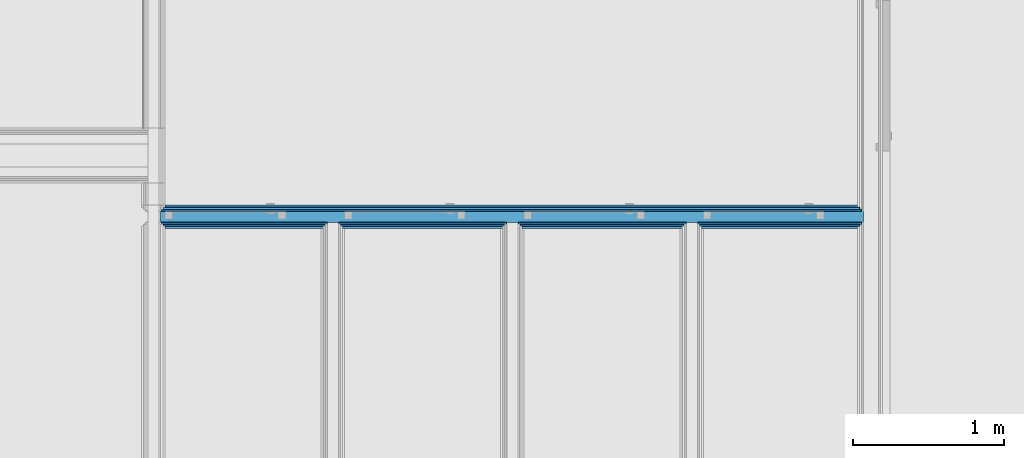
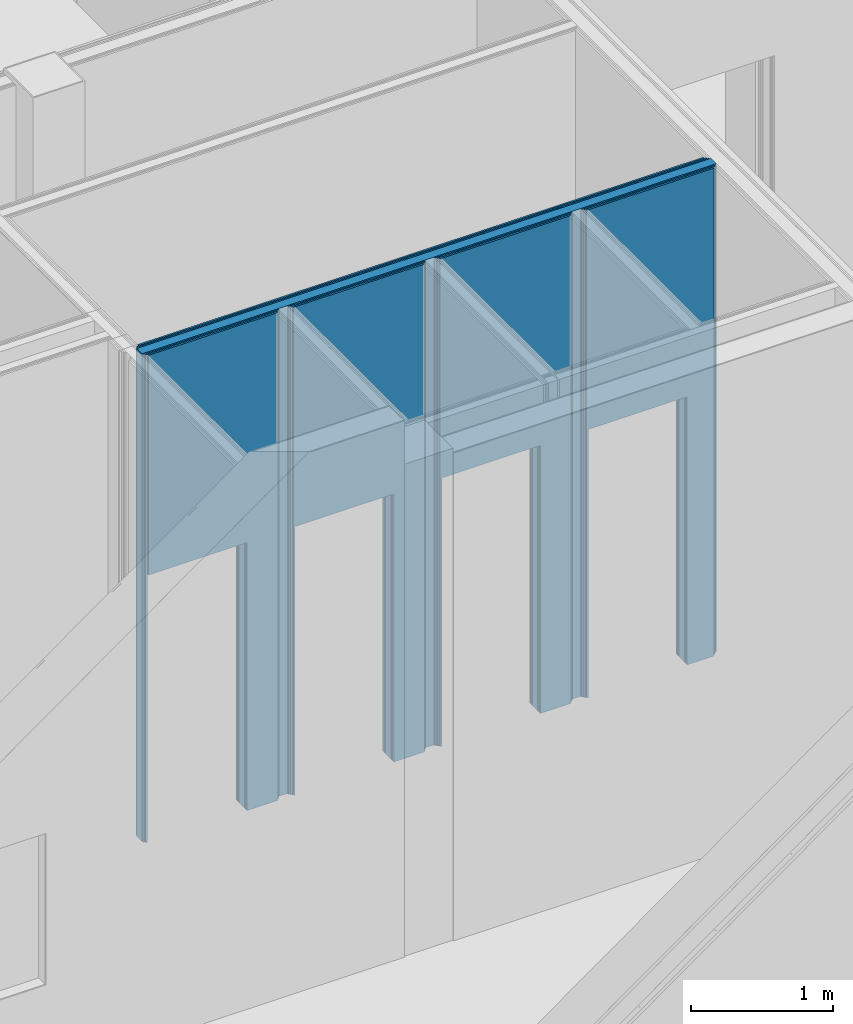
# One storey, part 120 of 260: 7 building element parts, 4 openings, 1 element without a shape of its own.
"""IFC2X3 building model written with IfcOpenShell, lengths in millimetres."""

from ifc_helpers import new_model, entity, si_unit, converted_unit, derived_unit, money_unit, direction, frame, origin_with_axes, place, context, subcontext, project, spatial, faceted_brep, material, type_object, element, aggregate, save


model = new_model("IFC2X3")

# Units and contexts
model_context = context("Model", 3, precision=0.01, world=origin_with_axes(), true_north=direction((0.0, 1.0)))
body_context = subcontext(model_context, "Body", "Model", "MODEL_VIEW")
ifc_project = project(units=[si_unit("LENGTHUNIT", "METRE", prefix="MILLI"), si_unit("AREAUNIT", "SQUARE_METRE"), si_unit("VOLUMEUNIT", "CUBIC_METRE"), converted_unit("PLANEANGLEUNIT", "DEGREE", entity("IfcPlaneAngleMeasure", 0.0174532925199), si_unit("PLANEANGLEUNIT", "RADIAN"), dimensions=[0, 0, 0, 0, 0, 0, 0]), money_unit("EUR"), converted_unit("TIMEUNIT", "Year", entity("IfcTimeMeasure", 31556926.0), si_unit("TIMEUNIT", "SECOND"), dimensions=[0, 0, 1, 0, 0, 0, 0]), si_unit("MASSUNIT", "GRAM", prefix="KILO"), si_unit("THERMODYNAMICTEMPERATUREUNIT", "DEGREE_CELSIUS"), si_unit("LUMINOUSINTENSITYUNIT", "LUMEN"), si_unit("ENERGYUNIT", "JOULE", prefix="MEGA"), derived_unit("THERMALCONDUCTANCEUNIT", [(si_unit("POWERUNIT", "WATT"), 1), (si_unit("LENGTHUNIT", "METRE"), -1), (si_unit("THERMODYNAMICTEMPERATUREUNIT", "KELVIN"), -1)]), derived_unit("SPECIFICHEATCAPACITYUNIT", [(si_unit("ENERGYUNIT", "JOULE"), 1), (si_unit("MASSUNIT", "GRAM", prefix="KILO"), -1), (si_unit("THERMODYNAMICTEMPERATUREUNIT", "KELVIN"), -1)]), derived_unit("MASSDENSITYUNIT", [(si_unit("MASSUNIT", "GRAM", prefix="KILO"), 1), (si_unit("VOLUMEUNIT", "CUBIC_METRE"), -1)])], contexts=[model_context])

# Site, building, storey
site_placement = place(None, origin_with_axes())
site = spatial("IfcSite", under=ifc_project, at=site_placement, Name="Kolde pst 67a", CompositionType="ELEMENT")
building_placement = place(site_placement, origin_with_axes())
building = spatial("IfcBuilding", under=site, at=building_placement, Name="Riigigümnaasium", CompositionType="ELEMENT")
storey_placement = place(building_placement, origin_with_axes())
storey = spatial("IfcBuildingStorey", under=building, at=storey_placement, Name="1. korrus", CompositionType="ELEMENT", Elevation=0.0)

# Wall, openings, building element parts
wall_type = type_object("IfcWallType", Name="SS-MK-7,5/1_plaaditud 155", PredefinedType="NOTDEFINED")
wall_placement = place(storey_placement, frame((73479.99953, 12796.8952753, 0.0), z_axis=(0.0, 0.0, 1.0), x_axis=(-1.0, 0.0, 0.0)))
wall = element("IfcWall", 1, at=wall_placement, inside=storey, type_object=wall_type, Name="Sisesein")
opening_1_placement = place(wall_placement, frame((620.0, 0.0, 0.0), z_axis=(0.0, 0.0, 1.0), x_axis=(1.0, 0.0, 0.0)))
element("IfcOpeningElement", 2, at=opening_1_placement, cuts=wall, Name="Siseuks", context=body_context, shape_type="Brep", body=[
    faceted_brep([(400.0, -310.0, 2300.0), (400.0, -310.0, 0.0), (400.0, 155.0, 0.0), (400.0, 155.0, 2300.0), (-400.0, -310.0, 2300.0), (-400.0, -310.0, 0.0), (-400.0, 155.0, 0.0), (-400.0, 155.0, 2300.0)], [[[0, 1, 2, 3]], [[0, 4, 5, 1]], [[1, 5, 6, 2]], [[3, 2, 6, 7]], [[4, 0, 3, 7]], [[5, 4, 7, 6]]]),
])
opening_2_placement = place(wall_placement, frame((1810.0, 0.0, 0.0), z_axis=(0.0, 0.0, 1.0), x_axis=(1.0, 0.0, 0.0)))
element("IfcOpeningElement", 3, at=opening_2_placement, cuts=wall, Name="Siseuks", context=body_context, shape_type="Brep", body=[
    faceted_brep([(400.0, -310.0, 2300.0), (400.0, -310.0, 0.0), (400.0, 155.0, 0.0), (400.0, 155.0, 2300.0), (-400.0, -310.0, 2300.0), (-400.0, -310.0, 0.0), (-400.0, 155.0, 0.0), (-400.0, 155.0, 2300.0)], [[[0, 1, 2, 3]], [[0, 4, 5, 1]], [[1, 5, 6, 2]], [[3, 2, 6, 7]], [[4, 0, 3, 7]], [[5, 4, 7, 6]]]),
])
opening_3_placement = place(wall_placement, frame((3000.0, 0.0, 0.0), z_axis=(0.0, 0.0, 1.0), x_axis=(1.0, 0.0, 0.0)))
element("IfcOpeningElement", 4, at=opening_3_placement, cuts=wall, Name="Siseuks", context=body_context, shape_type="Brep", body=[
    faceted_brep([(400.0, -310.0, 2300.0), (400.0, -310.0, 0.0), (400.0, 155.0, 0.0), (400.0, 155.0, 2300.0), (-400.0, -310.0, 2300.0), (-400.0, -310.0, 0.0), (-400.0, 155.0, 0.0), (-400.0, 155.0, 2300.0)], [[[0, 1, 2, 3]], [[0, 4, 5, 1]], [[1, 5, 6, 2]], [[3, 2, 6, 7]], [[4, 0, 3, 7]], [[5, 4, 7, 6]]]),
])
opening_4_placement = place(wall_placement, frame((4190.0, 0.0, 0.0), z_axis=(0.0, 0.0, 1.0), x_axis=(1.0, 0.0, 0.0)))
element("IfcOpeningElement", 5, at=opening_4_placement, cuts=wall, Name="Siseuks", context=body_context, shape_type="Brep", body=[
    faceted_brep([(400.0, -310.0, 2300.0), (400.0, -310.0, 0.0), (400.0, 155.0, 0.0), (400.0, 155.0, 2300.0), (-400.0, -310.0, 2300.0), (-400.0, -310.0, 0.0), (-400.0, 155.0, 0.0), (-400.0, 155.0, 2300.0)], [[[0, 1, 2, 3]], [[0, 4, 5, 1]], [[1, 5, 6, 2]], [[3, 2, 6, 7]], [[4, 0, 3, 7]], [[5, 4, 7, 6]]]),
])
ifc_material_1 = material(Name="_VIIMISTLUSKIHT - viimistlus vastavalt SA osale")
building_element_part_1_placement = place(wall_placement, origin_with_axes())
building_element_part_1 = element("IfcBuildingElementPart", 6, at=building_element_part_1_placement, material=ifc_material_1, Name="_VIIMISTLUSKIHT - viimistlus vastavalt SA osale", context=body_context, shape_type="Brep", body=[
    faceted_brep([(1020.0, -15.0000011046, 2300.0), (1020.0, -15.0, 0.0), (1034.99998756, -15.0, 0.0), (1034.99998756, -15.0000011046, 4185.0), (0.0, -15.0000014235, 4185.0), (0.0, -15.0, 0.0), (220.0, -15.0, 0.0), (220.0, -15.0000011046, 2300.0), (1020.0, 2.90572899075e-06, 2300.0), (1020.0, 0.0, 0.0), (1035.0, 0.0, 0.0), (1035.0, 2.05135108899e-06, 4185.0), (0.0, 2.90572899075e-06, 4185.0), (0.0, 0.0, 0.0), (220.0, 0.0, 0.0), (220.0, 2.90572899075e-06, 2300.0)], [[[0, 1, 2, 3, 4, 5, 6, 7]], [[1, 0, 8, 9]], [[1, 9, 10, 2]], [[3, 2, 10, 11]], [[4, 3, 11, 12]], [[12, 13, 5, 4]], [[14, 6, 5, 13]], [[7, 6, 14, 15]], [[0, 7, 15, 8]], [[15, 14, 13, 12, 11, 10, 9, 8]]]),
    faceted_brep([(2210.0, -15.0000007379, 2300.0), (2210.0, -15.0, 0.0), (2224.99998756, -15.0, 0.0), (2224.99998756, -15.0000007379, 4185.0), (1159.99998756, -15.0000010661, 4185.0), (1159.99998756, -15.0, 0.0), (1410.0, -15.0, 0.0), (1410.0, -15.0000007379, 2300.0), (2210.0, 1.9798243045e-06, 2300.0), (2210.0, 0.0, 0.0), (2225.0, 0.0, 0.0), (2225.0, 1.37042732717e-06, 4185.0), (1160.0, 1.9798243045e-06, 4185.0), (1160.0, 0.0, 0.0), (1410.0, 0.0, 0.0), (1410.0, 1.9798243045e-06, 2300.0)], [[[0, 1, 2, 3, 4, 5, 6, 7]], [[1, 0, 8, 9]], [[1, 9, 10, 2]], [[3, 2, 10, 11]], [[4, 3, 11, 12]], [[12, 13, 5, 4]], [[14, 6, 5, 13]], [[7, 6, 14, 15]], [[0, 7, 15, 8]], [[15, 14, 13, 12, 11, 10, 9, 8]]]),
    faceted_brep([(3400.0, -15.0000003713, 2300.0), (3400.0, -15.0, 0.0), (3414.99998609, -15.0, 0.0), (3414.99998609, -15.0000003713, 4185.0), (2349.99998756, -15.0000006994, 4185.0), (2349.99998756, -15.0, 0.0), (2600.0, -15.0, 0.0), (2600.0, -15.0000003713, 2300.0), (3400.0, 1.29890409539e-06, 2300.0), (3400.0, 0.0, 0.0), (3415.0, 0.0, 0.0), (3415.0, 6.89507118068e-07, 4185.0), (2350.0, 1.29890409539e-06, 4185.0), (2350.0, 0.0, 0.0), (2600.0, 0.0, 0.0), (2600.0, 1.29890409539e-06, 2300.0)], [[[0, 1, 2, 3, 4, 5, 6, 7]], [[1, 0, 8, 9]], [[1, 9, 10, 2]], [[3, 2, 10, 11]], [[4, 3, 11, 12]], [[12, 13, 5, 4]], [[14, 6, 5, 13]], [[7, 6, 14, 15]], [[0, 7, 15, 8]], [[15, 14, 13, 12, 11, 10, 9, 8]]]),
    faceted_brep([(3790.0, -15.0000000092, 2300.0), (4590.0, -15.0000000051, 2300.0), (4590.00005254, -15.0000000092, 4185.0), (3539.99998609, -15.0000003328, 4185.0), (3539.99998609, -15.0, 0.0), (3790.0, -15.0, 0.0), (3790.0, 6.17980333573e-07, 2300.0), (4590.0, 9.43423117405e-09, 2300.0), (4590.00005254, 1.7166712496e-08, 4185.0), (3540.0, 6.17980333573e-07, 4185.0), (3540.0, 0.0, 0.0), (3790.0, 0.0, 0.0)], [[[0, 1, 2, 3, 4, 5]], [[1, 0, 6, 7]], [[1, 7, 8, 2]], [[3, 2, 8, 9]], [[9, 10, 4, 3]], [[11, 5, 4, 10]], [[0, 5, 11, 6]], [[6, 11, 10, 9, 8, 7]]]),
])
ifc_material_2 = material(Name="_PLAATMATERJAL - kipsplaat veekindel")
building_element_part_2_placement = place(wall_placement, origin_with_axes())
building_element_part_2 = element("IfcBuildingElementPart", 7, at=building_element_part_2_placement, material=ifc_material_2, Name="_PLAATMATERJAL - kipsplaat veekindel", context=body_context, shape_type="Brep", body=[
    faceted_brep([(1020.0, -27.5, 2300.0), (1020.0, -27.5, 0.0), (1047.49997719, -27.5, 0.0), (1047.49997719, -27.5, 4185.0), (-15.0, -27.5, 4185.0), (-15.0, -27.5, 0.0), (220.0, -27.5, 0.0), (220.0, -27.5, 2300.0), (1020.0, -15.0000015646, 2300.0), (1020.0, -15.0, 0.0), (1047.49998756, -15.0, 0.0), (1047.49998756, -15.0000011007, 4185.0), (0.0, -15.0000015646, 4185.0), (-15.0, -15.0000015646, 4185.0), (-15.0, -15.0, 0.0), (220.0, -15.0, 0.0), (220.0, -15.0000015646, 2300.0)], [[[0, 1, 2, 3, 4, 5, 6, 7]], [[1, 0, 8, 9]], [[1, 9, 10, 2]], [[3, 2, 10, 11]], [[12, 13, 4, 3, 11]], [[5, 4, 13, 14]], [[15, 6, 5, 14]], [[7, 6, 15, 16]], [[0, 7, 16, 8]], [[16, 15, 14, 13, 12, 11, 10, 9, 8]]]),
    faceted_brep([(2210.0, -27.5, 2300.0), (2210.0, -27.5, 0.0), (2237.49997719, -27.5, 0.0), (2237.49997719, -27.5, 4185.0), (1147.49997719, -27.5, 4185.0), (1147.49997719, -27.5, 0.0), (1410.0, -27.5, 0.0), (1410.0, -27.5, 2300.0), (2210.0, -15.0000010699, 2300.0), (2210.0, -15.0, 0.0), (2237.49998756, -15.0, 0.0), (2237.49998756, -15.0000007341, 4185.0), (1147.49998756, -15.0000010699, 4185.0), (1147.49998756, -15.0, 0.0), (1410.0, -15.0, 0.0), (1410.0, -15.0000010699, 2300.0)], [[[0, 1, 2, 3, 4, 5, 6, 7]], [[1, 0, 8, 9]], [[1, 9, 10, 2]], [[3, 2, 10, 11]], [[4, 3, 11, 12]], [[12, 13, 5, 4]], [[14, 6, 5, 13]], [[7, 6, 14, 15]], [[0, 7, 15, 8]], [[15, 14, 13, 12, 11, 10, 9, 8]]]),
    faceted_brep([(3400.0, -27.5, 2300.0), (3400.0, -27.5, 0.0), (3427.4999745, -27.5, 0.0), (3427.4999745, -27.5, 4185.0), (2337.49997719, -27.5, 4185.0), (2337.49997719, -27.5, 0.0), (2600.0, -27.5, 0.0), (2600.0, -27.5, 2300.0), (3400.0, -15.0000007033, 2300.0), (3400.0, -15.0, 0.0), (3427.49998609, -15.0, 0.0), (3427.49998609, -15.0000003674, 4185.0), (2337.49998756, -15.0000007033, 4185.0), (2337.49998756, -15.0, 0.0), (2600.0, -15.0, 0.0), (2600.0, -15.0000007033, 2300.0)], [[[0, 1, 2, 3, 4, 5, 6, 7]], [[1, 0, 8, 9]], [[1, 9, 10, 2]], [[3, 2, 10, 11]], [[4, 3, 11, 12]], [[12, 13, 5, 4]], [[14, 6, 5, 13]], [[7, 6, 14, 15]], [[0, 7, 15, 8]], [[15, 14, 13, 12, 11, 10, 9, 8]]]),
    faceted_brep([(4590.0, -27.5, 2300.0), (4590.0, -27.5, 0.0), (4605.00005254, -27.5, 0.0), (4605.00005254, -27.5, 4185.0), (3527.4999745, -27.5, 4185.0), (3527.4999745, -27.5, 0.0), (3790.0, -27.5, 0.0), (3790.0, -27.5, 2300.0), (4590.0, -15.0000003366, 2300.0), (4590.0, -15.0, 0.0), (4605.00005254, -15.0, 0.0), (4605.00005254, -15.0000000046, 4185.0), (3527.49998609, -15.0000003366, 4185.0), (3527.49998609, -15.0, 0.0), (3790.0, -15.0, 0.0), (3790.0, -15.0000003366, 2300.0)], [[[0, 1, 2, 3, 4, 5, 6, 7]], [[1, 0, 8, 9]], [[1, 9, 10, 2]], [[3, 2, 10, 11]], [[4, 3, 11, 12]], [[12, 13, 5, 4]], [[14, 6, 5, 13]], [[7, 6, 14, 15]], [[0, 7, 15, 8]], [[15, 14, 13, 12, 11, 10, 9, 8]]]),
])
building_element_part_3_placement = place(wall_placement, origin_with_axes())
building_element_part_3 = element("IfcBuildingElementPart", 8, at=building_element_part_3_placement, material=ifc_material_2, Name="_PLAATMATERJAL - kipsplaat veekindel", context=body_context, shape_type="Brep", body=[
    faceted_brep([(1020.0, -40.0000019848, 2300.0), (1020.0, -40.0, 0.0), (1059.99996682, -40.0, 0.0), (1059.99996682, -40.0000019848, 4185.0), (0.0, -40.0000028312, 4185.0), (-27.5, -40.0000028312, 4185.0), (-27.5, -40.0, 0.0), (220.0, -40.0, 0.0), (220.0, -40.0000019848, 2300.0), (1020.0, -27.5, 2300.0), (1020.0, -27.5, 0.0), (1059.99997719, -27.5, 0.0), (1059.99997719, -27.5, 4185.0), (-27.5, -27.5, 4185.0), (-27.5, -27.5, 0.0), (220.0, -27.5, 0.0), (220.0, -27.5, 2300.0)], [[[0, 1, 2, 3, 4, 5, 6, 7, 8]], [[1, 0, 9, 10]], [[1, 10, 11, 2]], [[3, 2, 11, 12]], [[12, 13, 5, 4, 3]], [[6, 5, 13, 14]], [[15, 7, 6, 14]], [[8, 7, 15, 16]], [[0, 8, 16, 9]], [[16, 15, 14, 13, 12, 11, 10, 9]]]),
    faceted_brep([(2210.0, -40.0000013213, 2300.0), (2210.0, -40.0, 0.0), (2249.99996682, -40.0, 0.0), (2249.99996682, -40.0000013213, 4185.0), (1134.99996682, -40.000001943, 4185.0), (1134.99996682, -40.0, 0.0), (1410.0, -40.0, 0.0), (1410.0, -40.0000013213, 2300.0), (2210.0, -27.5, 2300.0), (2210.0, -27.5, 0.0), (2249.99997719, -27.5, 0.0), (2249.99997719, -27.5, 4185.0), (1134.99997719, -27.5, 4185.0), (1134.99997719, -27.5, 0.0), (1410.0, -27.5, 0.0), (1410.0, -27.5, 2300.0)], [[[0, 1, 2, 3, 4, 5, 6, 7]], [[1, 0, 8, 9]], [[1, 9, 10, 2]], [[3, 2, 10, 11]], [[4, 3, 11, 12]], [[12, 13, 5, 4]], [[14, 6, 5, 13]], [[7, 6, 14, 15]], [[0, 7, 15, 8]], [[15, 14, 13, 12, 11, 10, 9, 8]]]),
    faceted_brep([(3400.0, -40.0000006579, 2300.0), (3400.0, -40.0, 0.0), (3439.9999629, -40.0, 0.0), (3439.9999629, -40.0000006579, 4185.0), (2324.99996682, -40.0000012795, 4185.0), (2324.99996682, -40.0, 0.0), (2600.0, -40.0, 0.0), (2600.0, -40.0000006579, 2300.0), (3400.0, -27.5, 2300.0), (3400.0, -27.5, 0.0), (3439.9999745, -27.5, 0.0), (3439.9999745, -27.5, 4185.0), (2324.99997719, -27.5, 4185.0), (2324.99997719, -27.5, 0.0), (2600.0, -27.5, 0.0), (2600.0, -27.5, 2300.0)], [[[0, 1, 2, 3, 4, 5, 6, 7]], [[1, 0, 8, 9]], [[1, 9, 10, 2]], [[3, 2, 10, 11]], [[4, 3, 11, 12]], [[12, 13, 5, 4]], [[14, 6, 5, 13]], [[7, 6, 14, 15]], [[0, 7, 15, 8]], [[15, 14, 13, 12, 11, 10, 9, 8]]]),
    faceted_brep([(4590.0, -40.0000006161, 2300.0), (4590.0, -40.0, 0.0), (4617.50005254, -40.0, 0.0), (4617.50005254, -40.0000000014, 4185.0), (3514.9999629, -40.0000006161, 4185.0), (3514.9999629, -40.0, 0.0), (3790.0, -40.0, 0.0), (3790.0, -40.0000006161, 2300.0), (4590.0, -27.5, 2300.0), (4590.0, -27.5, 0.0), (4617.50005254, -27.5, 0.0), (4617.50005254, -27.5, 4185.0), (3514.9999745, -27.5, 4185.0), (3514.9999745, -27.5, 0.0), (3790.0, -27.5, 0.0), (3790.0, -27.5, 2300.0)], [[[0, 1, 2, 3, 4, 5, 6, 7]], [[1, 0, 8, 9]], [[1, 9, 10, 2]], [[3, 2, 10, 11]], [[4, 3, 11, 12]], [[12, 13, 5, 4]], [[14, 6, 5, 13]], [[7, 6, 14, 15]], [[0, 7, 15, 8]], [[15, 14, 13, 12, 11, 10, 9, 8]]]),
])
ifc_material_3 = material(Name="_KARKASS - metallkarkass CW 75/50, mineraalvill karkassi vahel")
building_element_part_4_placement = place(wall_placement, origin_with_axes())
building_element_part_4 = element("IfcBuildingElementPart", 9, at=building_element_part_4_placement, material=ifc_material_3, Name="_KARKASS - metallkarkass CW 75/50, mineraalvill karkassi vahel", context=body_context, shape_type="Brep", body=[
    faceted_brep([(4590.0, -115.000000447, 2300.0), (4590.0, -115.0, 0.0), (4620.00020388, -115.0, 0.0), (4620.00020388, -115.0, 4185.0), (0.0, -115.000000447, 4185.0), (-40.0, -115.000000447, 4185.0), (-40.0, -115.0, 0.0), (220.0, -115.0, 0.0), (220.0, -115.000000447, 2300.0), (1020.0, -115.000000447, 2300.0), (1020.0, -115.0, 0.0), (1410.0, -115.0, 0.0), (1410.0, -115.000000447, 2300.0), (2210.0, -115.000000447, 2300.0), (2210.0, -115.0, 0.0), (2600.0, -115.0, 0.0), (2600.0, -115.000000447, 2300.0), (3400.0, -115.000000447, 2300.0), (3400.0, -115.0, 0.0), (3790.0, -115.0, 0.0), (3790.0, -115.000000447, 2300.0), (4590.0, -40.0000028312, 2300.0), (4590.0, -40.0, 0.0), (4620.00020388, -40.0, 0.0), (4620.00020388, -40.0, 4185.0), (0.0, -40.0000028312, 4185.0), (-40.0, -40.0000028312, 4185.0), (-40.0, -40.0, 0.0), (220.0, -40.0, 0.0), (220.0, -40.0000028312, 2300.0), (1020.0, -40.0000028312, 2300.0), (1020.0, -40.0, 0.0), (1410.0, -40.0, 0.0), (1410.0, -40.0000028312, 2300.0), (2210.0, -40.0000028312, 2300.0), (2210.0, -40.0, 0.0), (2600.0, -40.0, 0.0), (2600.0, -40.0000028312, 2300.0), (3400.0, -40.0000028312, 2300.0), (3400.0, -40.0, 0.0), (3790.0, -40.0, 0.0), (3790.0, -40.0000028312, 2300.0)], [[[0, 1, 2, 3, 4, 5, 6, 7, 8, 9, 10, 11, 12, 13, 14, 15, 16, 17, 18, 19, 20]], [[1, 0, 21, 22]], [[1, 22, 23, 2]], [[24, 3, 2, 23]], [[25, 26, 5, 4, 3, 24]], [[27, 6, 5, 26]], [[27, 28, 7, 6]], [[29, 8, 7, 28]], [[30, 9, 8, 29]], [[31, 10, 9, 30]], [[10, 31, 32, 11]], [[32, 33, 12, 11]], [[33, 34, 13, 12]], [[34, 35, 14, 13]], [[15, 14, 35, 36]], [[15, 36, 37, 16]], [[16, 37, 38, 17]], [[17, 38, 39, 18]], [[40, 19, 18, 39]], [[20, 19, 40, 41]], [[0, 20, 41, 21]], [[41, 40, 39, 38, 37, 36, 35, 34, 33, 32, 31, 30, 29, 28, 27, 26, 25, 24, 23, 22, 21]]]),
])
building_element_part_5_placement = place(wall_placement, origin_with_axes())
building_element_part_5 = element("IfcBuildingElementPart", 10, at=building_element_part_5_placement, material=ifc_material_2, Name="_PLAATMATERJAL - kipsplaat veekindel", context=body_context, shape_type="Brep", body=[
    faceted_brep([(4590.0, -127.5, 2300.0), (4590.0, -127.5, 0.0), (4617.50005254, -127.5, 0.0), (4617.50005254, -127.5, 4185.0), (-27.5, -127.5, 4185.0), (-27.5, -127.5, 0.0), (220.0, -127.5, 0.0), (220.0, -127.5, 2300.0), (1020.0, -127.5, 2300.0), (1020.0, -127.5, 0.0), (1410.0, -127.5, 0.0), (1410.0, -127.5, 2300.0), (2210.0, -127.5, 2300.0), (2210.0, -127.5, 0.0), (2600.0, -127.5, 0.0), (2600.0, -127.5, 2300.0), (3400.0, -127.5, 2300.0), (3400.0, -127.5, 0.0), (3790.0, -127.5, 0.0), (3790.0, -127.5, 2300.0), (4590.0, -115.000000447, 2300.0), (4590.0, -115.0, 0.0), (4617.50005254, -115.0, 0.0), (4617.50005254, -115.0, 4185.0), (0.0, -115.000000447, 4185.0), (-27.5, -115.000000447, 4185.0), (-27.5, -115.0, 0.0), (220.0, -115.0, 0.0), (220.0, -115.000000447, 2300.0), (1020.0, -115.000000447, 2300.0), (1020.0, -115.0, 0.0), (1410.0, -115.0, 0.0), (1410.0, -115.000000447, 2300.0), (2210.0, -115.000000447, 2300.0), (2210.0, -115.0, 0.0), (2600.0, -115.0, 0.0), (2600.0, -115.000000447, 2300.0), (3400.0, -115.000000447, 2300.0), (3400.0, -115.0, 0.0), (3790.0, -115.0, 0.0), (3790.0, -115.000000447, 2300.0)], [[[0, 1, 2, 3, 4, 5, 6, 7, 8, 9, 10, 11, 12, 13, 14, 15, 16, 17, 18, 19]], [[1, 0, 20, 21]], [[1, 21, 22, 2]], [[23, 3, 2, 22]], [[3, 23, 24, 25, 4]], [[26, 5, 4, 25]], [[26, 27, 6, 5]], [[28, 7, 6, 27]], [[29, 8, 7, 28]], [[30, 9, 8, 29]], [[9, 30, 31, 10]], [[31, 32, 11, 10]], [[32, 33, 12, 11]], [[33, 34, 13, 12]], [[14, 13, 34, 35]], [[14, 35, 36, 15]], [[15, 36, 37, 16]], [[16, 37, 38, 17]], [[39, 18, 17, 38]], [[19, 18, 39, 40]], [[0, 19, 40, 20]], [[40, 39, 38, 37, 36, 35, 34, 33, 32, 31, 30, 29, 28, 27, 26, 25, 24, 23, 22, 21, 20]]]),
])
building_element_part_6_placement = place(wall_placement, origin_with_axes())
building_element_part_6 = element("IfcBuildingElementPart", 11, at=building_element_part_6_placement, material=ifc_material_2, Name="_PLAATMATERJAL - kipsplaat veekindel", context=body_context, shape_type="Brep", body=[
    faceted_brep([(4590.0, -140.000001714, 2300.0), (4590.0, -140.0, 0.0), (4605.00005254, -140.0, 0.0), (4605.00005254, -140.000000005, 4185.0), (0.0, -140.000001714, 4185.0), (-15.0, -140.000001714, 4185.0), (-15.0, -140.0, 0.0), (220.0, -140.0, 0.0), (220.0, -140.000001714, 2300.0), (1020.0, -140.000001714, 2300.0), (1020.0, -140.0, 0.0), (1410.0, -140.0, 0.0), (1410.0, -140.000001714, 2300.0), (2210.0, -140.000001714, 2300.0), (2210.0, -140.0, 0.0), (2600.0, -140.0, 0.0), (2600.0, -140.000001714, 2300.0), (3400.0, -140.000001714, 2300.0), (3400.0, -140.0, 0.0), (3790.0, -140.0, 0.0), (3790.0, -140.000001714, 2300.0), (4590.0, -127.5, 2300.0), (4590.0, -127.5, 0.0), (4605.00005254, -127.5, 0.0), (4605.00005254, -127.5, 4185.0), (-15.0, -127.5, 4185.0), (-15.0, -127.5, 0.0), (220.0, -127.5, 0.0), (220.0, -127.5, 2300.0), (1020.0, -127.5, 2300.0), (1020.0, -127.5, 0.0), (1410.0, -127.5, 0.0), (1410.0, -127.5, 2300.0), (2210.0, -127.5, 2300.0), (2210.0, -127.5, 0.0), (2600.0, -127.5, 0.0), (2600.0, -127.5, 2300.0), (3400.0, -127.5, 2300.0), (3400.0, -127.5, 0.0), (3790.0, -127.5, 0.0), (3790.0, -127.5, 2300.0)], [[[0, 1, 2, 3, 4, 5, 6, 7, 8, 9, 10, 11, 12, 13, 14, 15, 16, 17, 18, 19, 20]], [[1, 0, 21, 22]], [[1, 22, 23, 2]], [[24, 3, 2, 23]], [[3, 24, 25, 5, 4]], [[26, 6, 5, 25]], [[26, 27, 7, 6]], [[28, 8, 7, 27]], [[29, 9, 8, 28]], [[30, 10, 9, 29]], [[10, 30, 31, 11]], [[31, 32, 12, 11]], [[32, 33, 13, 12]], [[33, 34, 14, 13]], [[15, 14, 34, 35]], [[15, 35, 36, 16]], [[16, 36, 37, 17]], [[17, 37, 38, 18]], [[39, 19, 18, 38]], [[20, 19, 39, 40]], [[0, 20, 40, 21]], [[40, 39, 38, 37, 36, 35, 34, 33, 32, 31, 30, 29, 28, 27, 26, 25, 24, 23, 22, 21]]]),
])
building_element_part_7_placement = place(wall_placement, origin_with_axes())
building_element_part_7 = element("IfcBuildingElementPart", 12, at=building_element_part_7_placement, material=ifc_material_1, Name="_VIIMISTLUSKIHT - viimistlus vastavalt SA osale", context=body_context, shape_type="Brep", body=[
    faceted_brep([(3790.0, -155.0, 2300.0), (4590.0, -155.0, 2300.0), (4590.00005254, -155.0, 4185.0), (0.0, -155.0, 4185.0), (0.0, -155.0, 0.0), (220.0, -155.0, 0.0), (220.0, -155.0, 2300.0), (1020.0, -155.0, 2300.0), (1020.0, -155.0, 0.0), (1410.0, -155.0, 0.0), (1410.0, -155.0, 2300.0), (2210.0, -155.0, 2300.0), (2210.0, -155.0, 0.0), (2600.0, -155.0, 0.0), (2600.0, -155.0, 2300.0), (3400.0, -155.0, 2300.0), (3400.0, -155.0, 0.0), (3790.0, -155.0, 0.0), (3790.0, -140.000001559, 2300.0), (4590.0, -140.000000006, 2300.0), (4590.00005254, -140.00000001, 4185.0), (0.0, -140.000001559, 4185.0), (0.0, -140.0, 0.0), (220.0, -140.0, 0.0), (220.0, -140.000001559, 2300.0), (1020.0, -140.000001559, 2300.0), (1020.0, -140.0, 0.0), (1410.0, -140.0, 0.0), (1410.0, -140.000001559, 2300.0), (2210.0, -140.000001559, 2300.0), (2210.0, -140.0, 0.0), (2600.0, -140.0, 0.0), (2600.0, -140.000001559, 2300.0), (3400.0, -140.000001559, 2300.0), (3400.0, -140.0, 0.0), (3790.0, -140.0, 0.0)], [[[0, 1, 2, 3, 4, 5, 6, 7, 8, 9, 10, 11, 12, 13, 14, 15, 16, 17]], [[1, 0, 18, 19]], [[1, 19, 20, 2]], [[21, 3, 2, 20]], [[3, 21, 22, 4]], [[22, 23, 5, 4]], [[24, 6, 5, 23]], [[25, 7, 6, 24]], [[26, 8, 7, 25]], [[8, 26, 27, 9]], [[27, 28, 10, 9]], [[28, 29, 11, 10]], [[29, 30, 12, 11]], [[13, 12, 30, 31]], [[13, 31, 32, 14]], [[14, 32, 33, 15]], [[15, 33, 34, 16]], [[35, 17, 16, 34]], [[0, 17, 35, 18]], [[18, 35, 34, 33, 32, 31, 30, 29, 28, 27, 26, 25, 24, 23, 22, 21, 20, 19]]]),
])
aggregate(wall, [building_element_part_1, building_element_part_2, building_element_part_3, building_element_part_4, building_element_part_5, building_element_part_6, building_element_part_7])

save(model, "model.ifc")
